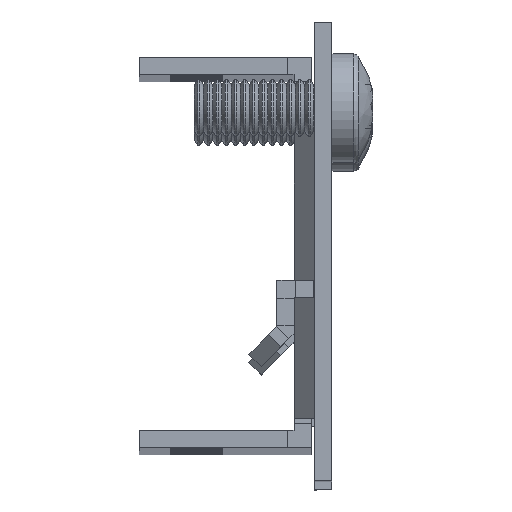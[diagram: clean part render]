
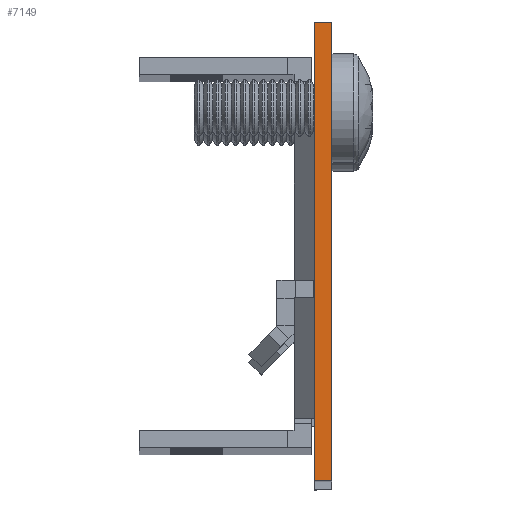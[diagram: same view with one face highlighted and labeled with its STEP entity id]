
A CAD part, top view. The second image highlights one B-rep face of the part: STEP entity #7149.
In plain terms, the highlighted planar face has unit normal (0, 0, 1) as drawn and (-1, 0, 0) by its records, which use the part's own axes.
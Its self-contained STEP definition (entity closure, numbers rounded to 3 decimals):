
#5364 = VERTEX_POINT('',#5365);
#5365 = CARTESIAN_POINT('',(-225.022,20.,1.802));
#5371 = EDGE_CURVE('',#5372,#5364,#5374,.T.);
#5372 = VERTEX_POINT('',#5373);
#5373 = CARTESIAN_POINT('',(-225.022,-20.,1.802));
#5374 = LINE('',#5375,#5376);
#5375 = CARTESIAN_POINT('',(-225.022,14.5,1.802));
#5376 = VECTOR('',#5377,1.);
#5377 = DIRECTION('',(-0.,1.,0.));
#5473 = EDGE_CURVE('',#5474,#5476,#5478,.T.);
#5474 = VERTEX_POINT('',#5475);
#5475 = CARTESIAN_POINT('',(-225.022,-20.,0.302));
#5476 = VERTEX_POINT('',#5477);
#5477 = CARTESIAN_POINT('',(-225.022,20.,0.302));
#5478 = LINE('',#5479,#5480);
#5479 = CARTESIAN_POINT('',(-225.022,0.,
    0.302));
#5480 = VECTOR('',#5481,1.);
#5481 = DIRECTION('',(0.,1.,0.));
#7149 = ADVANCED_FACE('',(#7150),#7166,.T.);
#7150 = FACE_BOUND('',#7151,.T.);
#7151 = EDGE_LOOP('',(#7152,#7153,#7159,#7160));
#7152 = ORIENTED_EDGE('',*,*,#5473,.F.);
#7153 = ORIENTED_EDGE('',*,*,#7154,.T.);
#7154 = EDGE_CURVE('',#5474,#5372,#7155,.T.);
#7155 = LINE('',#7156,#7157);
#7156 = CARTESIAN_POINT('',(-225.022,-20.,0.302));
#7157 = VECTOR('',#7158,1.);
#7158 = DIRECTION('',(0.,0.,1.));
#7159 = ORIENTED_EDGE('',*,*,#5371,.T.);
#7160 = ORIENTED_EDGE('',*,*,#7161,.F.);
#7161 = EDGE_CURVE('',#5476,#5364,#7162,.T.);
#7162 = LINE('',#7163,#7164);
#7163 = CARTESIAN_POINT('',(-225.022,20.,0.302));
#7164 = VECTOR('',#7165,1.);
#7165 = DIRECTION('',(0.,0.,1.));
#7166 = PLANE('',#7167);
#7167 = AXIS2_PLACEMENT_3D('',#7168,#7169,#7170);
#7168 = CARTESIAN_POINT('',(-225.022,14.5,1.802));
#7169 = DIRECTION('',(-1.,0.,0.));
#7170 = DIRECTION('',(0.,0.,1.));
